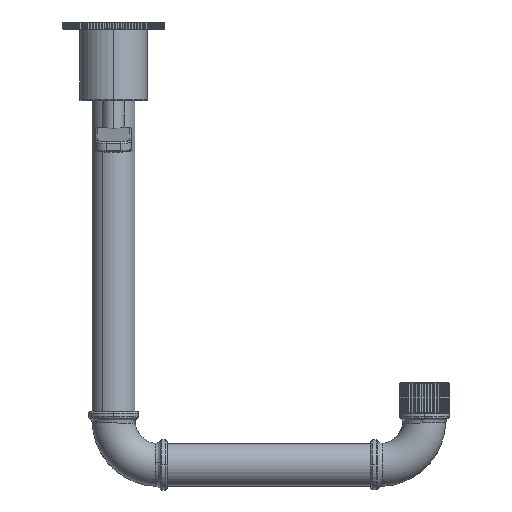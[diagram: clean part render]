
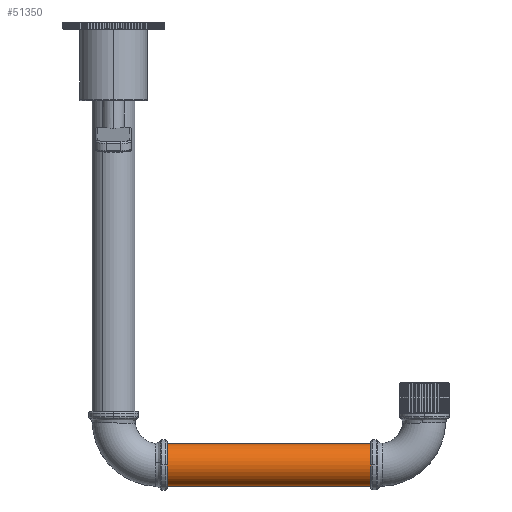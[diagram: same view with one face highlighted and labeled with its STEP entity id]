
A CAD part, front view. The second image highlights one B-rep face of the part: STEP entity #51350.
In plain terms, the highlighted cylindrical face has radius 12 mm (diameter 24 mm), a partial arc.
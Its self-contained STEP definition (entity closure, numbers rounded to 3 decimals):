
#193 = DIRECTION ( 'NONE',  ( -1., 0., 0. ) ) ;
#2033 = DIRECTION ( 'NONE',  ( 1., 0., 0. ) ) ;
#2176 = AXIS2_PLACEMENT_3D ( 'NONE', #84539, #31509, #16380 ) ;
#4080 = AXIS2_PLACEMENT_3D ( 'NONE', #70671, #2033, #78777 ) ;
#4996 = CARTESIAN_POINT ( 'NONE',  ( 29., -150., -167.561 ) ) ;
#5387 = CIRCLE ( 'NONE', #2176, 12. ) ;
#5484 = EDGE_CURVE ( 'NONE', #20931, #20557, #5387, .T. ) ;
#5859 = VERTEX_POINT ( 'NONE', #75453 ) ;
#7264 = DIRECTION ( 'NONE',  ( 1., 0., 0. ) ) ;
#11111 = LINE ( 'NONE', #41859, #39991 ) ;
#12562 = LINE ( 'NONE', #4996, #16487 ) ;
#14329 = CYLINDRICAL_SURFACE ( 'NONE', #36915, 12. ) ;
#16380 = DIRECTION ( 'NONE',  ( 0., -1., 0. ) ) ;
#16487 = VECTOR ( 'NONE', #21633, 1000. ) ;
#20557 = VERTEX_POINT ( 'NONE', #37838 ) ;
#20931 = VERTEX_POINT ( 'NONE', #72520 ) ;
#21633 = DIRECTION ( 'NONE',  ( 1., 0., 0. ) ) ;
#23394 = DIRECTION ( 'NONE',  ( 0., 0., -1. ) ) ;
#24523 = VERTEX_POINT ( 'NONE', #50638 ) ;
#26803 = EDGE_CURVE ( 'NONE', #5859, #81493, #41729, .T. ) ;
#27665 = ORIENTED_EDGE ( 'NONE', *, *, #26803, .T. ) ;
#31071 = EDGE_CURVE ( 'NONE', #20557, #24523, #47561, .T. ) ;
#31509 = DIRECTION ( 'NONE',  ( 1., 0., 0. ) ) ;
#33352 = CARTESIAN_POINT ( 'NONE',  ( 144., -150., -167.561 ) ) ;
#33669 = AXIS2_PLACEMENT_3D ( 'NONE', #37500, #193, #68308 ) ;
#34594 = EDGE_LOOP ( 'NONE', ( #86888, #55360, #83017, #80258, #27665 ) ) ;
#36915 = AXIS2_PLACEMENT_3D ( 'NONE', #90532, #7264, #23394 ) ;
#37500 = CARTESIAN_POINT ( 'NONE',  ( 144., -150., -179.561 ) ) ;
#37838 = CARTESIAN_POINT ( 'NONE',  ( 29.5, -162., -179.561 ) ) ;
#39991 = VECTOR ( 'NONE', #72652, 1000. ) ;
#41729 = CIRCLE ( 'NONE', #33669, 12. ) ;
#41859 = CARTESIAN_POINT ( 'NONE',  ( 29., -150., -191.561 ) ) ;
#47561 = CIRCLE ( 'NONE', #4080, 12. ) ;
#50638 = CARTESIAN_POINT ( 'NONE',  ( 29.5, -150., -191.561 ) ) ;
#51350 = ADVANCED_FACE ( 'NONE', ( #61713 ), #14329, .T. ) ;
#55360 = ORIENTED_EDGE ( 'NONE', *, *, #5484, .T. ) ;
#61713 = FACE_OUTER_BOUND ( 'NONE', #34594, .T. ) ;
#68308 = DIRECTION ( 'NONE',  ( 0., 0., 1. ) ) ;
#70671 = CARTESIAN_POINT ( 'NONE',  ( 29.5, -150., -179.561 ) ) ;
#72520 = CARTESIAN_POINT ( 'NONE',  ( 29.5, -150., -167.561 ) ) ;
#72652 = DIRECTION ( 'NONE',  ( 1., 0., 0. ) ) ;
#75453 = CARTESIAN_POINT ( 'NONE',  ( 144., -150., -191.561 ) ) ;
#76250 = EDGE_CURVE ( 'NONE', #20931, #81493, #12562, .T. ) ;
#78777 = DIRECTION ( 'NONE',  ( 0., -1., 0. ) ) ;
#80258 = ORIENTED_EDGE ( 'NONE', *, *, #86548, .T. ) ;
#81493 = VERTEX_POINT ( 'NONE', #33352 ) ;
#83017 = ORIENTED_EDGE ( 'NONE', *, *, #31071, .T. ) ;
#84539 = CARTESIAN_POINT ( 'NONE',  ( 29.5, -150., -179.561 ) ) ;
#86548 = EDGE_CURVE ( 'NONE', #24523, #5859, #11111, .T. ) ;
#86888 = ORIENTED_EDGE ( 'NONE', *, *, #76250, .F. ) ;
#90532 = CARTESIAN_POINT ( 'NONE',  ( 29., -150., -179.561 ) ) ;
